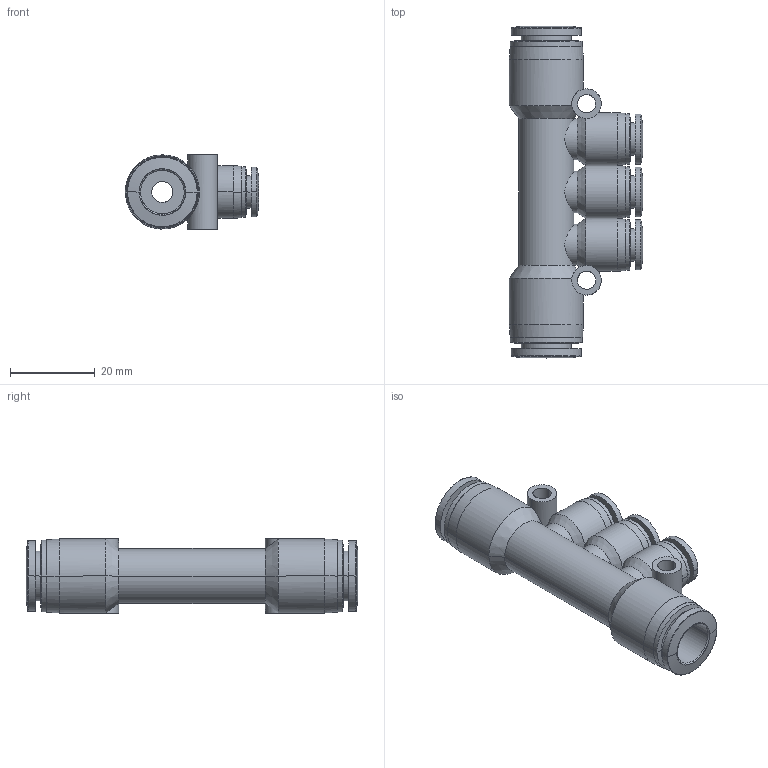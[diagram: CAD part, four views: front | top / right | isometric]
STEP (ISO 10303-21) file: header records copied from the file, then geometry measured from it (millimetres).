
FILE_DESCRIPTION (( 'STEP AP203' ), '1' );
FILE_NAME ('FRG10-06.STEP', '2020-05-12T14:58:59', ( '' ), ( '' ), 'SwSTEP 2.0', 'SolidWorks 2019', '' );
FILE_SCHEMA (( 'CONFIG_CONTROL_DESIGN' ));
Length unit declared in the file: millimetre
Products named in the file (1): FRG10-06
Bounding box: 31.5 x 78.4 x 17.5 mm (x, y, z)
Volume: 14313.9 mm3; surface area: 10801.5 mm2
Topology: 1 solids, 1 shells, 157 faces, 370 edges, 230 vertices
Faces by surface type: cylinder 74, cone 40, plane 29, bspline 10, torus 4
Entity records: 9115 total; most frequent: CARTESIAN_POINT 5978, ORIENTED_EDGE 740, DIRECTION 422, EDGE_CURVE 370, VERTEX_POINT 230, B_SPLINE_CURVE_WITH_KNOTS 222, EDGE_LOOP 188, FACE_OUTER_BOUND 157
